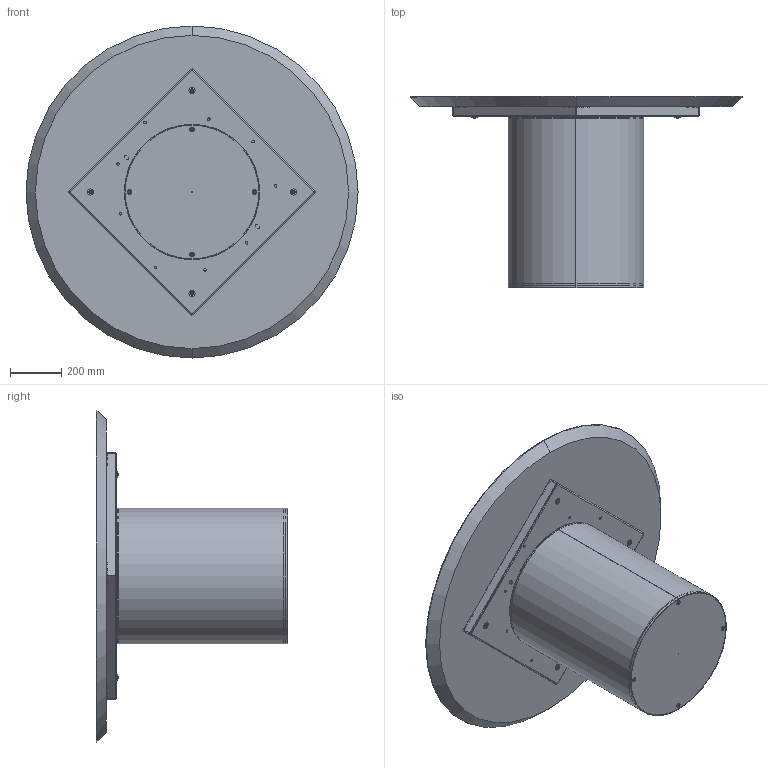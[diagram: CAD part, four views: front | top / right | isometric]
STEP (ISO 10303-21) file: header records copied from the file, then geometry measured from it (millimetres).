
FILE_DESCRIPTION (( 'STEP AP203' ), '1' );
FILE_NAME ('CI05W.STEP', '2024-08-08T07:00:01', ( '' ), ( '' ), 'SwSTEP 2.0', 'SolidWorks 2022', '' );
FILE_SCHEMA (( 'CONFIG_CONTROL_DESIGN' ));
Length unit declared in the file: millimetre
Products named in the file (12): C2B000000_02-01-ZAVORRA IN FERRO D.530mm; rondella M8_8X24; TTAV0801 TELAIO UNIVERSALE TONDO-PIASTRINA; TTAV0801-02-TELAIO UNIVERSALE TONDO-VASSOIO; W1XCMXX-00-Piani Rotondi legno_D.1300; C2B000000_01-00-struttura cilindro D.530mm; M8xXXmm_M8x55mm; C2B000000-03-CILINDRO BASE D.530mm_Normale; TTAV0801-02-TELAIO UNIVERSALE TONDO; CI05W; COLLO TELAIO UNIVERSALE TTAV0801 CON FERRAMENTA_MTG TOP LEGNO-MARMO-KING; M8xXXmm_hex_M8X20mm
Assembly tree (23 placements, depth 4):
  CI05W
    C2B000000-03-CILINDRO BASE D.530mm_Normale
      C2B000000_01-00-struttura cilindro D.530mm
      C2B000000_02-01-ZAVORRA IN FERRO D.530mm
      M8xXXmm_hex_M8X20mm  x4
    COLLO TELAIO UNIVERSALE TTAV0801 CON FERRAMENTA_MTG TOP LEGNO-MARMO-KING
      TTAV0801-02-TELAIO UNIVERSALE TONDO
        TTAV0801-02-TELAIO UNIVERSALE TONDO-VASSOIO
        TTAV0801 TELAIO UNIVERSALE TONDO-PIASTRINA  x4
      rondella M8_8X24  x4
      M8xXXmm_M8x55mm  x4
    W1XCMXX-00-Piani Rotondi legno_D.1300
Bounding box: 1300 x 750 x 1300 mm (x, y, z)
Volume: 57651211.5 mm3; surface area: 6873416 mm2
Topology: 23 solids, 23 shells, 862 faces, 2140 edges, 1308 vertices
Faces by surface type: plane 380, cylinder 326, cone 86, torus 56, sphere 14
Entity records: 17104 total; most frequent: DIRECTION 2838, CARTESIAN_POINT 2690, ORIENTED_EDGE 2566, EDGE_CURVE 1283, AXIS2_PLACEMENT_3D 1043, VERTEX_POINT 809, VECTOR 752, LINE 752
